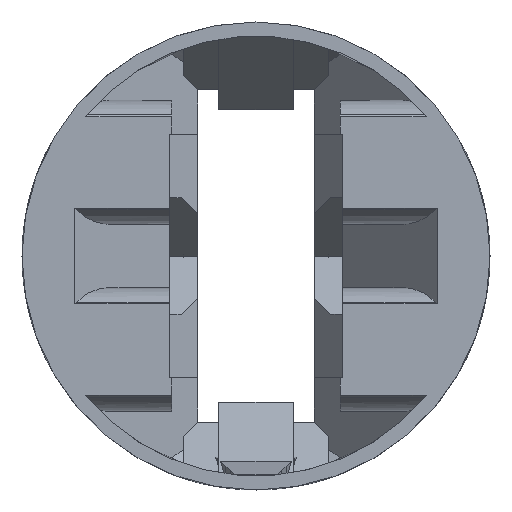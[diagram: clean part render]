
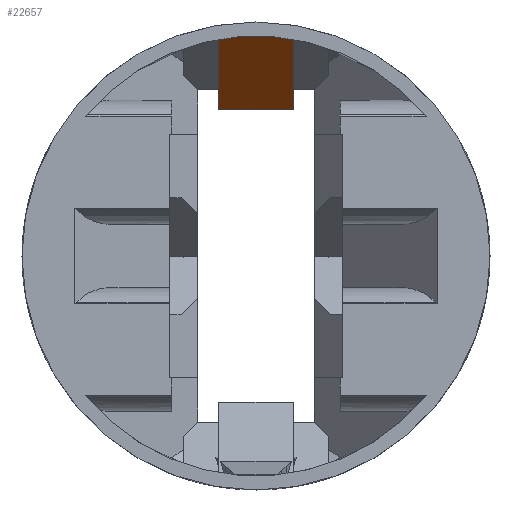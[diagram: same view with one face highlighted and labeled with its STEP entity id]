
A CAD part, left-side view. The second image highlights one B-rep face of the part: STEP entity #22657.
In plain terms, the highlighted planar face has unit normal (-0.643, 0, -0.766).
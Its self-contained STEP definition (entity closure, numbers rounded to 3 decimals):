
#6211 = PLANE('',#6212);
#6212 = AXIS2_PLACEMENT_3D('',#6213,#6214,#6215);
#6213 = CARTESIAN_POINT('',(40.188,-3.2,17.39));
#6214 = DIRECTION('',(0.,1.,0.));
#6215 = DIRECTION('',(0.,-0.,1.));
#6314 = CYLINDRICAL_SURFACE('',#6315,18.8);
#6315 = AXIS2_PLACEMENT_3D('',#6316,#6317,#6318);
#6316 = CARTESIAN_POINT('',(29.,0.,0.));
#6317 = DIRECTION('',(1.,0.,0.));
#6318 = DIRECTION('',(-0.,0.,1.));
#6837 = VERTEX_POINT('',#6838);
#6838 = CARTESIAN_POINT('',(35.959,-3.2,18.526));
#6857 = EDGE_CURVE('',#6858,#6837,#6860,.T.);
#6858 = VERTEX_POINT('',#6859);
#6859 = CARTESIAN_POINT('',(35.632,0.,18.8));
#6860 = SURFACE_CURVE('',#6861,(#6866,#6876),.PCURVE_S1.);
#6861 = ELLIPSE('',#6862,29.248,18.8);
#6862 = AXIS2_PLACEMENT_3D('',#6863,#6864,#6865);
#6863 = CARTESIAN_POINT('',(58.037,0.,0.));
#6864 = DIRECTION('',(0.643,0.,0.766));
#6865 = DIRECTION('',(0.766,0.,-0.643));
#6866 = PCURVE('',#6314,#6867);
#6867 = DEFINITIONAL_REPRESENTATION('',(#6868),#6875);
#6868 = B_SPLINE_CURVE_WITH_KNOTS('',5,(#6869,#6870,#6871,#6872,#6873,
    #6874),.UNSPECIFIED.,.F.,.F.,(6,6),(3.142,3.313),
  .PIECEWISE_BEZIER_KNOTS.);
#6869 = CARTESIAN_POINT('',(6.283,6.632));
#6870 = CARTESIAN_POINT('',(6.317,6.632));
#6871 = CARTESIAN_POINT('',(6.352,6.665));
#6872 = CARTESIAN_POINT('',(6.386,6.73));
#6873 = CARTESIAN_POINT('',(6.42,6.828));
#6874 = CARTESIAN_POINT('',(6.454,6.959));
#6875 = ( GEOMETRIC_REPRESENTATION_CONTEXT(2) 
PARAMETRIC_REPRESENTATION_CONTEXT() REPRESENTATION_CONTEXT('2D SPACE',''
  ) );
#6876 = PCURVE('',#6877,#6882);
#6877 = PLANE('',#6878);
#6878 = AXIS2_PLACEMENT_3D('',#6879,#6880,#6881);
#6879 = CARTESIAN_POINT('',(43.14,-3.2,12.5));
#6880 = DIRECTION('',(0.643,0.,0.766));
#6881 = DIRECTION('',(-0.766,0.,0.643));
#6882 = DEFINITIONAL_REPRESENTATION('',(#6883),#6887);
#6883 = ELLIPSE('',#6884,29.248,18.8);
#6884 = AXIS2_PLACEMENT_2D('',#6885,#6886);
#6885 = CARTESIAN_POINT('',(-19.447,-3.2));
#6886 = DIRECTION('',(-1.,0.));
#6887 = ( GEOMETRIC_REPRESENTATION_CONTEXT(2) 
PARAMETRIC_REPRESENTATION_CONTEXT() REPRESENTATION_CONTEXT('2D SPACE',''
  ) );
#6889 = EDGE_CURVE('',#6890,#6858,#6892,.T.);
#6890 = VERTEX_POINT('',#6891);
#6891 = CARTESIAN_POINT('',(35.959,3.2,18.526));
#6892 = SURFACE_CURVE('',#6893,(#6898,#6908),.PCURVE_S1.);
#6893 = ELLIPSE('',#6894,29.248,18.8);
#6894 = AXIS2_PLACEMENT_3D('',#6895,#6896,#6897);
#6895 = CARTESIAN_POINT('',(58.037,0.,0.));
#6896 = DIRECTION('',(0.643,0.,0.766));
#6897 = DIRECTION('',(0.766,0.,-0.643));
#6898 = PCURVE('',#6314,#6899);
#6899 = DEFINITIONAL_REPRESENTATION('',(#6900),#6907);
#6900 = B_SPLINE_CURVE_WITH_KNOTS('',5,(#6901,#6902,#6903,#6904,#6905,
    #6906),.UNSPECIFIED.,.F.,.F.,(6,6),(2.971,3.142),
  .PIECEWISE_BEZIER_KNOTS.);
#6901 = CARTESIAN_POINT('',(6.112,6.959));
#6902 = CARTESIAN_POINT('',(6.146,6.828));
#6903 = CARTESIAN_POINT('',(6.181,6.73));
#6904 = CARTESIAN_POINT('',(6.215,6.665));
#6905 = CARTESIAN_POINT('',(6.249,6.632));
#6906 = CARTESIAN_POINT('',(6.283,6.632));
#6907 = ( GEOMETRIC_REPRESENTATION_CONTEXT(2) 
PARAMETRIC_REPRESENTATION_CONTEXT() REPRESENTATION_CONTEXT('2D SPACE',''
  ) );
#6908 = PCURVE('',#6877,#6909);
#6909 = DEFINITIONAL_REPRESENTATION('',(#6910),#6914);
#6910 = ELLIPSE('',#6911,29.248,18.8);
#6911 = AXIS2_PLACEMENT_2D('',#6912,#6913);
#6912 = CARTESIAN_POINT('',(-19.447,-3.2));
#6913 = DIRECTION('',(-1.,0.));
#6914 = ( GEOMETRIC_REPRESENTATION_CONTEXT(2) 
PARAMETRIC_REPRESENTATION_CONTEXT() REPRESENTATION_CONTEXT('2D SPACE',''
  ) );
#6929 = PLANE('',#6930);
#6930 = AXIS2_PLACEMENT_3D('',#6931,#6932,#6933);
#6931 = CARTESIAN_POINT('',(40.188,3.2,17.39));
#6932 = DIRECTION('',(0.,1.,0.));
#6933 = DIRECTION('',(0.,-0.,1.));
#7002 = VERTEX_POINT('',#7003);
#7003 = CARTESIAN_POINT('',(43.14,3.2,12.5));
#7017 = PLANE('',#7018);
#7018 = AXIS2_PLACEMENT_3D('',#7019,#7020,#7021);
#7019 = CARTESIAN_POINT('',(43.79,-3.2,12.5));
#7020 = DIRECTION('',(0.,0.,1.));
#7021 = DIRECTION('',(-1.,0.,0.));
#7029 = EDGE_CURVE('',#7002,#6890,#7030,.T.);
#7030 = SURFACE_CURVE('',#7031,(#7035,#7042),.PCURVE_S1.);
#7031 = LINE('',#7032,#7033);
#7032 = CARTESIAN_POINT('',(43.14,3.2,12.5));
#7033 = VECTOR('',#7034,1.);
#7034 = DIRECTION('',(-0.766,0.,0.643));
#7035 = PCURVE('',#6929,#7036);
#7036 = DEFINITIONAL_REPRESENTATION('',(#7037),#7041);
#7037 = LINE('',#7038,#7039);
#7038 = CARTESIAN_POINT('',(-4.89,2.952));
#7039 = VECTOR('',#7040,1.);
#7040 = DIRECTION('',(0.643,-0.766));
#7041 = ( GEOMETRIC_REPRESENTATION_CONTEXT(2) 
PARAMETRIC_REPRESENTATION_CONTEXT() REPRESENTATION_CONTEXT('2D SPACE',''
  ) );
#7042 = PCURVE('',#6877,#7043);
#7043 = DEFINITIONAL_REPRESENTATION('',(#7044),#7048);
#7044 = LINE('',#7045,#7046);
#7045 = CARTESIAN_POINT('',(0.,-6.4));
#7046 = VECTOR('',#7047,1.);
#7047 = DIRECTION('',(1.,0.));
#7048 = ( GEOMETRIC_REPRESENTATION_CONTEXT(2) 
PARAMETRIC_REPRESENTATION_CONTEXT() REPRESENTATION_CONTEXT('2D SPACE',''
  ) );
#7099 = EDGE_CURVE('',#7100,#7002,#7102,.T.);
#7100 = VERTEX_POINT('',#7101);
#7101 = CARTESIAN_POINT('',(43.14,-3.2,12.5));
#7102 = SURFACE_CURVE('',#7103,(#7107,#7114),.PCURVE_S1.);
#7103 = LINE('',#7104,#7105);
#7104 = CARTESIAN_POINT('',(43.14,-3.2,12.5));
#7105 = VECTOR('',#7106,1.);
#7106 = DIRECTION('',(-0.,1.,-0.));
#7107 = PCURVE('',#7017,#7108);
#7108 = DEFINITIONAL_REPRESENTATION('',(#7109),#7113);
#7109 = LINE('',#7110,#7111);
#7110 = CARTESIAN_POINT('',(0.65,0.));
#7111 = VECTOR('',#7112,1.);
#7112 = DIRECTION('',(0.,-1.));
#7113 = ( GEOMETRIC_REPRESENTATION_CONTEXT(2) 
PARAMETRIC_REPRESENTATION_CONTEXT() REPRESENTATION_CONTEXT('2D SPACE',''
  ) );
#7114 = PCURVE('',#6877,#7115);
#7115 = DEFINITIONAL_REPRESENTATION('',(#7116),#7120);
#7116 = LINE('',#7117,#7118);
#7117 = CARTESIAN_POINT('',(0.,0.));
#7118 = VECTOR('',#7119,1.);
#7119 = DIRECTION('',(0.,-1.));
#7120 = ( GEOMETRIC_REPRESENTATION_CONTEXT(2) 
PARAMETRIC_REPRESENTATION_CONTEXT() REPRESENTATION_CONTEXT('2D SPACE',''
  ) );
#22657 = ADVANCED_FACE('',(#22658),#6877,.F.);
#22658 = FACE_BOUND('',#22659,.F.);
#22659 = EDGE_LOOP('',(#22660,#22681,#22682,#22683,#22684));
#22660 = ORIENTED_EDGE('',*,*,#22661,.F.);
#22661 = EDGE_CURVE('',#7100,#6837,#22662,.T.);
#22662 = SURFACE_CURVE('',#22663,(#22667,#22674),.PCURVE_S1.);
#22663 = LINE('',#22664,#22665);
#22664 = CARTESIAN_POINT('',(43.14,-3.2,12.5));
#22665 = VECTOR('',#22666,1.);
#22666 = DIRECTION('',(-0.766,0.,0.643));
#22667 = PCURVE('',#6877,#22668);
#22668 = DEFINITIONAL_REPRESENTATION('',(#22669),#22673);
#22669 = LINE('',#22670,#22671);
#22670 = CARTESIAN_POINT('',(0.,0.));
#22671 = VECTOR('',#22672,1.);
#22672 = DIRECTION('',(1.,0.));
#22673 = ( GEOMETRIC_REPRESENTATION_CONTEXT(2) 
PARAMETRIC_REPRESENTATION_CONTEXT() REPRESENTATION_CONTEXT('2D SPACE',''
  ) );
#22674 = PCURVE('',#6211,#22675);
#22675 = DEFINITIONAL_REPRESENTATION('',(#22676),#22680);
#22676 = LINE('',#22677,#22678);
#22677 = CARTESIAN_POINT('',(-4.89,2.952));
#22678 = VECTOR('',#22679,1.);
#22679 = DIRECTION('',(0.643,-0.766));
#22680 = ( GEOMETRIC_REPRESENTATION_CONTEXT(2) 
PARAMETRIC_REPRESENTATION_CONTEXT() REPRESENTATION_CONTEXT('2D SPACE',''
  ) );
#22681 = ORIENTED_EDGE('',*,*,#7099,.T.);
#22682 = ORIENTED_EDGE('',*,*,#7029,.T.);
#22683 = ORIENTED_EDGE('',*,*,#6889,.T.);
#22684 = ORIENTED_EDGE('',*,*,#6857,.T.);
